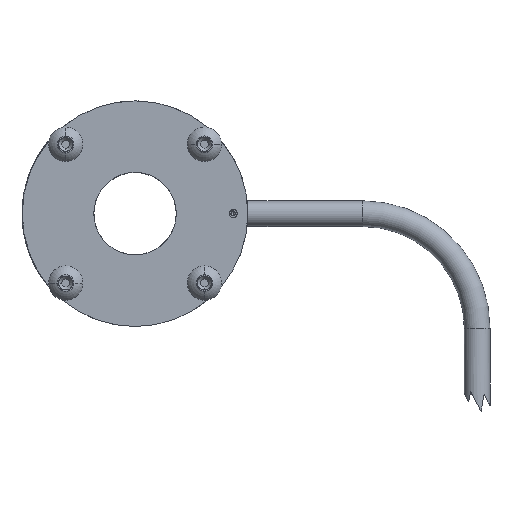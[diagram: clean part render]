
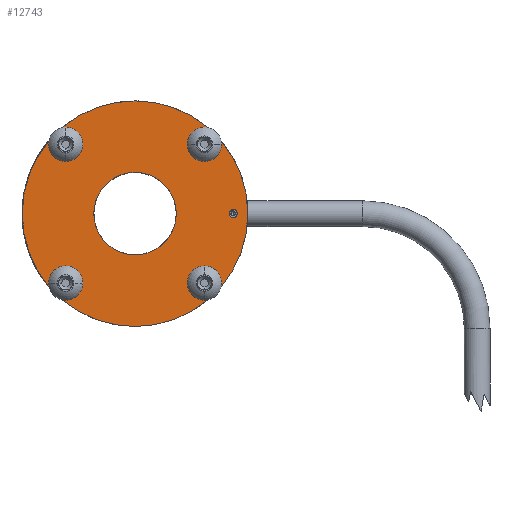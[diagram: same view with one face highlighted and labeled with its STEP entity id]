
A CAD part, front view. The second image highlights one B-rep face of the part: STEP entity #12743.
In plain terms, the highlighted planar face has unit normal (0, -1, 0).
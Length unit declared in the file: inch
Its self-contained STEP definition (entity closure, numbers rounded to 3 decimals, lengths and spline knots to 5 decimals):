
#17 = EDGE_LOOP ( 'NONE', ( #14507, #33031 ) ) ;
#449 = ORIENTED_EDGE ( 'NONE', *, *, #3819, .F. ) ;
#615 = CARTESIAN_POINT ( 'NONE',  ( 0., 0., 0. ) ) ;
#876 = VERTEX_POINT ( 'NONE', #29609 ) ;
#1119 = EDGE_CURVE ( 'NONE', #13930, #26134, #4187, .T. ) ;
#1153 = CARTESIAN_POINT ( 'NONE',  ( 0., 0., 0.36 ) ) ;
#1163 = EDGE_CURVE ( 'NONE', #27194, #10745, #13100, .T. ) ;
#1515 = AXIS2_PLACEMENT_3D ( 'NONE', #17086, #32801, #12211 ) ;
#1864 = DIRECTION ( 'NONE',  ( 0., 1., 0. ) ) ;
#2551 = FACE_BOUND ( 'NONE', #3269, .T. ) ;
#2611 = CIRCLE ( 'NONE', #29479, 0.035 ) ;
#3032 = EDGE_CURVE ( 'NONE', #876, #11156, #22156, .T. ) ;
#3184 = DIRECTION ( 'NONE',  ( 0., -1., 0. ) ) ;
#3269 = EDGE_LOOP ( 'NONE', ( #30015, #10873 ) ) ;
#3819 = EDGE_CURVE ( 'NONE', #20694, #17866, #30988, .T. ) ;
#4187 = CIRCLE ( 'NONE', #11147, 0.06496 ) ;
#4262 = EDGE_CURVE ( 'NONE', #30140, #24062, #12875, .T. ) ;
#4405 = EDGE_CURVE ( 'NONE', #10745, #27194, #28123, .T. ) ;
#4479 = CARTESIAN_POINT ( 'NONE',  ( 0.856, 0., 0. ) ) ;
#4891 = CARTESIAN_POINT ( 'NONE',  ( -0.60528, 0., -0.60528 ) ) ;
#4938 = ORIENTED_EDGE ( 'NONE', *, *, #1119, .T. ) ;
#5127 = CARTESIAN_POINT ( 'NONE',  ( 0.60528, 0., 0.60528 ) ) ;
#5364 = FACE_BOUND ( 'NONE', #12240, .T. ) ;
#5383 = CIRCLE ( 'NONE', #21642, 0.06496 ) ;
#5396 = AXIS2_PLACEMENT_3D ( 'NONE', #4891, #9958, #27923 ) ;
#5458 = ORIENTED_EDGE ( 'NONE', *, *, #32821, .F. ) ;
#5768 = DIRECTION ( 'NONE',  ( 0., 1., 0. ) ) ;
#5856 = EDGE_CURVE ( 'NONE', #24062, #30140, #25167, .T. ) ;
#6230 = DIRECTION ( 'NONE',  ( 0., -1., 0. ) ) ;
#6695 = AXIS2_PLACEMENT_3D ( 'NONE', #615, #3184, #26338 ) ;
#7260 = DIRECTION ( 'NONE',  ( 0., 1., 0. ) ) ;
#7458 = CARTESIAN_POINT ( 'NONE',  ( 0., 0., 0. ) ) ;
#7706 = DIRECTION ( 'NONE',  ( 0., 0., 1. ) ) ;
#8993 = EDGE_LOOP ( 'NONE', ( #31342, #10881 ) ) ;
#9314 = CARTESIAN_POINT ( 'NONE',  ( 0.60528, 0., -0.67024 ) ) ;
#9564 = ORIENTED_EDGE ( 'NONE', *, *, #5856, .T. ) ;
#9958 = DIRECTION ( 'NONE',  ( 0., 1., 0. ) ) ;
#10475 = CIRCLE ( 'NONE', #14027, 0.98425 ) ;
#10676 = CARTESIAN_POINT ( 'NONE',  ( -0.60528, 0., 0.67024 ) ) ;
#10745 = VERTEX_POINT ( 'NONE', #11007 ) ;
#10873 = ORIENTED_EDGE ( 'NONE', *, *, #14519, .T. ) ;
#10881 = ORIENTED_EDGE ( 'NONE', *, *, #1163, .T. ) ;
#11007 = CARTESIAN_POINT ( 'NONE',  ( -0.60528, 0., -0.54032 ) ) ;
#11147 = AXIS2_PLACEMENT_3D ( 'NONE', #5127, #22744, #20485 ) ;
#11156 = VERTEX_POINT ( 'NONE', #26513 ) ;
#11267 = CARTESIAN_POINT ( 'NONE',  ( 0.856, 0., 0.035 ) ) ;
#11433 = CARTESIAN_POINT ( 'NONE',  ( 0.60528, 0., 0.67024 ) ) ;
#12035 = DIRECTION ( 'NONE',  ( 0., -1., 0. ) ) ;
#12104 = ORIENTED_EDGE ( 'NONE', *, *, #26656, .T. ) ;
#12211 = DIRECTION ( 'NONE',  ( 0., 0., 1. ) ) ;
#12240 = EDGE_LOOP ( 'NONE', ( #4938, #16215 ) ) ;
#12327 = DIRECTION ( 'NONE',  ( 0., 0., 1. ) ) ;
#12743 = ADVANCED_FACE ( 'NONE', ( #22193, #5364, #2551, #20593, #19778, #25054, #29069 ), #17348, .F. ) ;
#12849 = EDGE_LOOP ( 'NONE', ( #449, #5458 ) ) ;
#12875 = CIRCLE ( 'NONE', #1515, 0.06496 ) ;
#13100 = CIRCLE ( 'NONE', #28522, 0.06496 ) ;
#13329 = VERTEX_POINT ( 'NONE', #11267 ) ;
#13786 = CARTESIAN_POINT ( 'NONE',  ( 0.60528, 0., -0.54032 ) ) ;
#13930 = VERTEX_POINT ( 'NONE', #11433 ) ;
#14027 = AXIS2_PLACEMENT_3D ( 'NONE', #33100, #32892, #25642 ) ;
#14237 = DIRECTION ( 'NONE',  ( 0., 0., 1. ) ) ;
#14242 = CARTESIAN_POINT ( 'NONE',  ( 0.60528, 0., -0.60528 ) ) ;
#14289 = AXIS2_PLACEMENT_3D ( 'NONE', #25019, #7260, #12327 ) ;
#14507 = ORIENTED_EDGE ( 'NONE', *, *, #27001, .F. ) ;
#14519 = EDGE_CURVE ( 'NONE', #22077, #18347, #30137, .T. ) ;
#14572 = DIRECTION ( 'NONE',  ( 0., 0., -1. ) ) ;
#15772 = CARTESIAN_POINT ( 'NONE',  ( 0.60528, 0., -0.60528 ) ) ;
#16215 = ORIENTED_EDGE ( 'NONE', *, *, #24944, .T. ) ;
#16990 = DIRECTION ( 'NONE',  ( 0., -1., 0. ) ) ;
#17086 = CARTESIAN_POINT ( 'NONE',  ( -0.60528, 0., 0.60528 ) ) ;
#17348 = PLANE ( 'NONE',  #14289 ) ;
#17830 = CARTESIAN_POINT ( 'NONE',  ( -0.60528, 0., -0.67024 ) ) ;
#17866 = VERTEX_POINT ( 'NONE', #1153 ) ;
#18317 = AXIS2_PLACEMENT_3D ( 'NONE', #19549, #22622, #14237 ) ;
#18347 = VERTEX_POINT ( 'NONE', #13786 ) ;
#19549 = CARTESIAN_POINT ( 'NONE',  ( -0.60528, 0., 0.60528 ) ) ;
#19711 = DIRECTION ( 'NONE',  ( 0., 0., -1. ) ) ;
#19778 = FACE_BOUND ( 'NONE', #12849, .T. ) ;
#19819 = EDGE_CURVE ( 'NONE', #13329, #28023, #2611, .T. ) ;
#19987 = CARTESIAN_POINT ( 'NONE',  ( 0.856, 0., -0.035 ) ) ;
#20452 = DIRECTION ( 'NONE',  ( 0., 0., -1. ) ) ;
#20485 = DIRECTION ( 'NONE',  ( 0., 0., 1. ) ) ;
#20593 = FACE_BOUND ( 'NONE', #8993, .T. ) ;
#20694 = VERTEX_POINT ( 'NONE', #30671 ) ;
#21057 = EDGE_CURVE ( 'NONE', #18347, #22077, #26200, .T. ) ;
#21642 = AXIS2_PLACEMENT_3D ( 'NONE', #25197, #27780, #27888 ) ;
#21831 = AXIS2_PLACEMENT_3D ( 'NONE', #27148, #16990, #14572 ) ;
#22077 = VERTEX_POINT ( 'NONE', #9314 ) ;
#22156 = CIRCLE ( 'NONE', #28383, 0.98425 ) ;
#22193 = FACE_BOUND ( 'NONE', #32051, .T. ) ;
#22452 = AXIS2_PLACEMENT_3D ( 'NONE', #14242, #1864, #24876 ) ;
#22622 = DIRECTION ( 'NONE',  ( 0., 1., 0. ) ) ;
#22744 = DIRECTION ( 'NONE',  ( 0., 1., 0. ) ) ;
#23087 = CARTESIAN_POINT ( 'NONE',  ( -0.60528, 0., -0.60528 ) ) ;
#24062 = VERTEX_POINT ( 'NONE', #10676 ) ;
#24176 = DIRECTION ( 'NONE',  ( 0., 0., -1. ) ) ;
#24293 = CARTESIAN_POINT ( 'NONE',  ( 0.856, 0., 0. ) ) ;
#24876 = DIRECTION ( 'NONE',  ( 0., 0., 1. ) ) ;
#24939 = ORIENTED_EDGE ( 'NONE', *, *, #4262, .T. ) ;
#24944 = EDGE_CURVE ( 'NONE', #26134, #13930, #5383, .T. ) ;
#25019 = CARTESIAN_POINT ( 'NONE',  ( -0.36, 0., 0. ) ) ;
#25054 = FACE_OUTER_BOUND ( 'NONE', #25786, .T. ) ;
#25167 = CIRCLE ( 'NONE', #18317, 0.06496 ) ;
#25197 = CARTESIAN_POINT ( 'NONE',  ( 0.60528, 0., 0.60528 ) ) ;
#25642 = DIRECTION ( 'NONE',  ( 0., 0., -1. ) ) ;
#25786 = EDGE_LOOP ( 'NONE', ( #32944, #12104 ) ) ;
#26134 = VERTEX_POINT ( 'NONE', #27934 ) ;
#26190 = CIRCLE ( 'NONE', #21831, 0.36 ) ;
#26200 = CIRCLE ( 'NONE', #33249, 0.06496 ) ;
#26201 = DIRECTION ( 'NONE',  ( 0., 0., 1. ) ) ;
#26338 = DIRECTION ( 'NONE',  ( 0., 0., -1. ) ) ;
#26513 = CARTESIAN_POINT ( 'NONE',  ( 0., 0., 0.98425 ) ) ;
#26656 = EDGE_CURVE ( 'NONE', #11156, #876, #10475, .T. ) ;
#27001 = EDGE_CURVE ( 'NONE', #28023, #13329, #33189, .T. ) ;
#27148 = CARTESIAN_POINT ( 'NONE',  ( 0., 0., 0. ) ) ;
#27194 = VERTEX_POINT ( 'NONE', #17830 ) ;
#27780 = DIRECTION ( 'NONE',  ( 0., 1., 0. ) ) ;
#27888 = DIRECTION ( 'NONE',  ( 0., 0., 1. ) ) ;
#27923 = DIRECTION ( 'NONE',  ( 0., 0., 1. ) ) ;
#27934 = CARTESIAN_POINT ( 'NONE',  ( 0.60528, 0., 0.54032 ) ) ;
#27988 = AXIS2_PLACEMENT_3D ( 'NONE', #4479, #12035, #19711 ) ;
#28023 = VERTEX_POINT ( 'NONE', #19987 ) ;
#28123 = CIRCLE ( 'NONE', #5396, 0.06496 ) ;
#28161 = DIRECTION ( 'NONE',  ( 0., 1., 0. ) ) ;
#28248 = DIRECTION ( 'NONE',  ( 0., -1., 0. ) ) ;
#28383 = AXIS2_PLACEMENT_3D ( 'NONE', #7458, #28248, #20452 ) ;
#28522 = AXIS2_PLACEMENT_3D ( 'NONE', #23087, #28161, #7706 ) ;
#28631 = CARTESIAN_POINT ( 'NONE',  ( -0.60528, 0., 0.54032 ) ) ;
#29069 = FACE_BOUND ( 'NONE', #17, .T. ) ;
#29479 = AXIS2_PLACEMENT_3D ( 'NONE', #24293, #6230, #24176 ) ;
#29609 = CARTESIAN_POINT ( 'NONE',  ( 0., 0., -0.98425 ) ) ;
#30015 = ORIENTED_EDGE ( 'NONE', *, *, #21057, .T. ) ;
#30137 = CIRCLE ( 'NONE', #22452, 0.06496 ) ;
#30140 = VERTEX_POINT ( 'NONE', #28631 ) ;
#30671 = CARTESIAN_POINT ( 'NONE',  ( 0., 0., -0.36 ) ) ;
#30988 = CIRCLE ( 'NONE', #6695, 0.36 ) ;
#31342 = ORIENTED_EDGE ( 'NONE', *, *, #4405, .T. ) ;
#32051 = EDGE_LOOP ( 'NONE', ( #9564, #24939 ) ) ;
#32801 = DIRECTION ( 'NONE',  ( 0., 1., 0. ) ) ;
#32821 = EDGE_CURVE ( 'NONE', #17866, #20694, #26190, .T. ) ;
#32892 = DIRECTION ( 'NONE',  ( 0., -1., 0. ) ) ;
#32944 = ORIENTED_EDGE ( 'NONE', *, *, #3032, .T. ) ;
#33031 = ORIENTED_EDGE ( 'NONE', *, *, #19819, .F. ) ;
#33100 = CARTESIAN_POINT ( 'NONE',  ( 0., 0., 0. ) ) ;
#33189 = CIRCLE ( 'NONE', #27988, 0.035 ) ;
#33249 = AXIS2_PLACEMENT_3D ( 'NONE', #15772, #5768, #26201 ) ;
